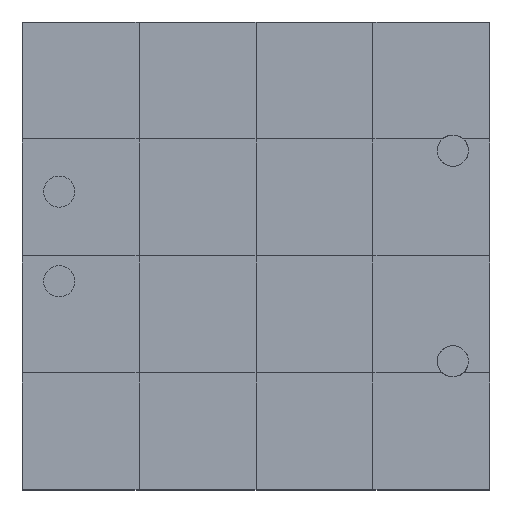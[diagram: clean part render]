
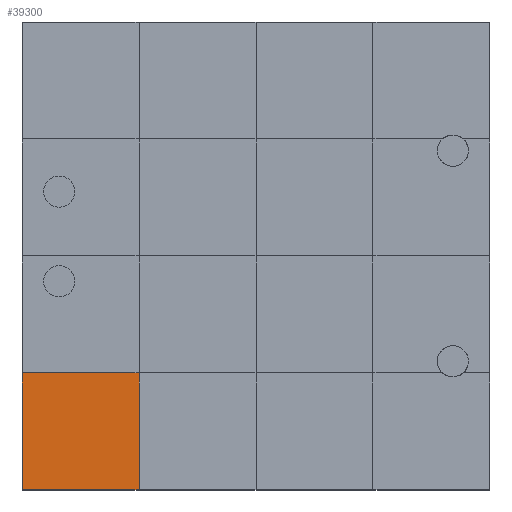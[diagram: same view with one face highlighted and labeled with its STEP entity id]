
A CAD part, top view. The second image highlights one B-rep face of the part: STEP entity #39300.
In plain terms, the highlighted planar face has unit normal (0, 0, 1).
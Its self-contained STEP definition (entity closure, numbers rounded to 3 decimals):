
#39111 = VERTEX_POINT('',#39112);
#39112 = CARTESIAN_POINT('',(0.,0.,1.5));
#39119 = PLANE('',#39120);
#39120 = AXIS2_PLACEMENT_3D('',#39121,#39122,#39123);
#39121 = CARTESIAN_POINT('',(0.,0.,0.));
#39122 = DIRECTION('',(1.,0.,-0.));
#39123 = DIRECTION('',(0.,0.,1.));
#39131 = PLANE('',#39132);
#39132 = AXIS2_PLACEMENT_3D('',#39133,#39134,#39135);
#39133 = CARTESIAN_POINT('',(0.,0.,0.));
#39134 = DIRECTION('',(-0.,1.,0.));
#39135 = DIRECTION('',(0.,0.,1.));
#39172 = VERTEX_POINT('',#39173);
#39173 = CARTESIAN_POINT('',(0.,3.,1.5));
#39199 = EDGE_CURVE('',#39111,#39172,#39200,.T.);
#39200 = SURFACE_CURVE('',#39201,(#39205,#39212),.PCURVE_S1.);
#39201 = LINE('',#39202,#39203);
#39202 = CARTESIAN_POINT('',(0.,0.,1.5));
#39203 = VECTOR('',#39204,1.);
#39204 = DIRECTION('',(-0.,1.,0.));
#39205 = PCURVE('',#39119,#39206);
#39206 = DEFINITIONAL_REPRESENTATION('',(#39207),#39211);
#39207 = LINE('',#39208,#39209);
#39208 = CARTESIAN_POINT('',(1.5,0.));
#39209 = VECTOR('',#39210,1.);
#39210 = DIRECTION('',(0.,-1.));
#39211 = ( GEOMETRIC_REPRESENTATION_CONTEXT(2) 
PARAMETRIC_REPRESENTATION_CONTEXT() REPRESENTATION_CONTEXT('2D SPACE',''
  ) );
#39212 = PCURVE('',#39213,#39218);
#39213 = PLANE('',#39214);
#39214 = AXIS2_PLACEMENT_3D('',#39215,#39216,#39217);
#39215 = CARTESIAN_POINT('',(0.,0.,1.5));
#39216 = DIRECTION('',(0.,0.,1.));
#39217 = DIRECTION('',(1.,0.,-0.));
#39218 = DEFINITIONAL_REPRESENTATION('',(#39219),#39223);
#39219 = LINE('',#39220,#39221);
#39220 = CARTESIAN_POINT('',(0.,0.));
#39221 = VECTOR('',#39222,1.);
#39222 = DIRECTION('',(0.,1.));
#39223 = ( GEOMETRIC_REPRESENTATION_CONTEXT(2) 
PARAMETRIC_REPRESENTATION_CONTEXT() REPRESENTATION_CONTEXT('2D SPACE',''
  ) );
#39252 = EDGE_CURVE('',#39111,#39253,#39255,.T.);
#39253 = VERTEX_POINT('',#39254);
#39254 = CARTESIAN_POINT('',(3.,0.,1.5));
#39255 = SURFACE_CURVE('',#39256,(#39260,#39267),.PCURVE_S1.);
#39256 = LINE('',#39257,#39258);
#39257 = CARTESIAN_POINT('',(0.,0.,1.5));
#39258 = VECTOR('',#39259,1.);
#39259 = DIRECTION('',(1.,0.,-0.));
#39260 = PCURVE('',#39131,#39261);
#39261 = DEFINITIONAL_REPRESENTATION('',(#39262),#39266);
#39262 = LINE('',#39263,#39264);
#39263 = CARTESIAN_POINT('',(1.5,0.));
#39264 = VECTOR('',#39265,1.);
#39265 = DIRECTION('',(0.,1.));
#39266 = ( GEOMETRIC_REPRESENTATION_CONTEXT(2) 
PARAMETRIC_REPRESENTATION_CONTEXT() REPRESENTATION_CONTEXT('2D SPACE',''
  ) );
#39267 = PCURVE('',#39213,#39268);
#39268 = DEFINITIONAL_REPRESENTATION('',(#39269),#39273);
#39269 = LINE('',#39270,#39271);
#39270 = CARTESIAN_POINT('',(0.,0.));
#39271 = VECTOR('',#39272,1.);
#39272 = DIRECTION('',(1.,0.));
#39273 = ( GEOMETRIC_REPRESENTATION_CONTEXT(2) 
PARAMETRIC_REPRESENTATION_CONTEXT() REPRESENTATION_CONTEXT('2D SPACE',''
  ) );
#39300 = ADVANCED_FACE('',(#39301),#39213,.T.);
#39301 = FACE_BOUND('',#39302,.T.);
#39302 = EDGE_LOOP('',(#39303,#39304,#39305,#39333));
#39303 = ORIENTED_EDGE('',*,*,#39199,.F.);
#39304 = ORIENTED_EDGE('',*,*,#39252,.T.);
#39305 = ORIENTED_EDGE('',*,*,#39306,.T.);
#39306 = EDGE_CURVE('',#39253,#39307,#39309,.T.);
#39307 = VERTEX_POINT('',#39308);
#39308 = CARTESIAN_POINT('',(3.,3.,1.5));
#39309 = SURFACE_CURVE('',#39310,(#39314,#39321),.PCURVE_S1.);
#39310 = LINE('',#39311,#39312);
#39311 = CARTESIAN_POINT('',(3.,0.,1.5));
#39312 = VECTOR('',#39313,1.);
#39313 = DIRECTION('',(-0.,1.,0.));
#39314 = PCURVE('',#39213,#39315);
#39315 = DEFINITIONAL_REPRESENTATION('',(#39316),#39320);
#39316 = LINE('',#39317,#39318);
#39317 = CARTESIAN_POINT('',(3.,0.));
#39318 = VECTOR('',#39319,1.);
#39319 = DIRECTION('',(0.,1.));
#39320 = ( GEOMETRIC_REPRESENTATION_CONTEXT(2) 
PARAMETRIC_REPRESENTATION_CONTEXT() REPRESENTATION_CONTEXT('2D SPACE',''
  ) );
#39321 = PCURVE('',#39322,#39327);
#39322 = PLANE('',#39323);
#39323 = AXIS2_PLACEMENT_3D('',#39324,#39325,#39326);
#39324 = CARTESIAN_POINT('',(3.,0.,1.5));
#39325 = DIRECTION('',(0.,0.,1.));
#39326 = DIRECTION('',(1.,0.,-0.));
#39327 = DEFINITIONAL_REPRESENTATION('',(#39328),#39332);
#39328 = LINE('',#39329,#39330);
#39329 = CARTESIAN_POINT('',(0.,0.));
#39330 = VECTOR('',#39331,1.);
#39331 = DIRECTION('',(0.,1.));
#39332 = ( GEOMETRIC_REPRESENTATION_CONTEXT(2) 
PARAMETRIC_REPRESENTATION_CONTEXT() REPRESENTATION_CONTEXT('2D SPACE',''
  ) );
#39333 = ORIENTED_EDGE('',*,*,#39334,.F.);
#39334 = EDGE_CURVE('',#39172,#39307,#39335,.T.);
#39335 = SURFACE_CURVE('',#39336,(#39340,#39347),.PCURVE_S1.);
#39336 = LINE('',#39337,#39338);
#39337 = CARTESIAN_POINT('',(0.,3.,1.5));
#39338 = VECTOR('',#39339,1.);
#39339 = DIRECTION('',(1.,0.,-0.));
#39340 = PCURVE('',#39213,#39341);
#39341 = DEFINITIONAL_REPRESENTATION('',(#39342),#39346);
#39342 = LINE('',#39343,#39344);
#39343 = CARTESIAN_POINT('',(0.,3.));
#39344 = VECTOR('',#39345,1.);
#39345 = DIRECTION('',(1.,0.));
#39346 = ( GEOMETRIC_REPRESENTATION_CONTEXT(2) 
PARAMETRIC_REPRESENTATION_CONTEXT() REPRESENTATION_CONTEXT('2D SPACE',''
  ) );
#39347 = PCURVE('',#39348,#39353);
#39348 = PLANE('',#39349);
#39349 = AXIS2_PLACEMENT_3D('',#39350,#39351,#39352);
#39350 = CARTESIAN_POINT('',(0.,3.,1.5));
#39351 = DIRECTION('',(0.,0.,1.));
#39352 = DIRECTION('',(1.,0.,-0.));
#39353 = DEFINITIONAL_REPRESENTATION('',(#39354),#39358);
#39354 = LINE('',#39355,#39356);
#39355 = CARTESIAN_POINT('',(0.,0.));
#39356 = VECTOR('',#39357,1.);
#39357 = DIRECTION('',(1.,0.));
#39358 = ( GEOMETRIC_REPRESENTATION_CONTEXT(2) 
PARAMETRIC_REPRESENTATION_CONTEXT() REPRESENTATION_CONTEXT('2D SPACE',''
  ) );
